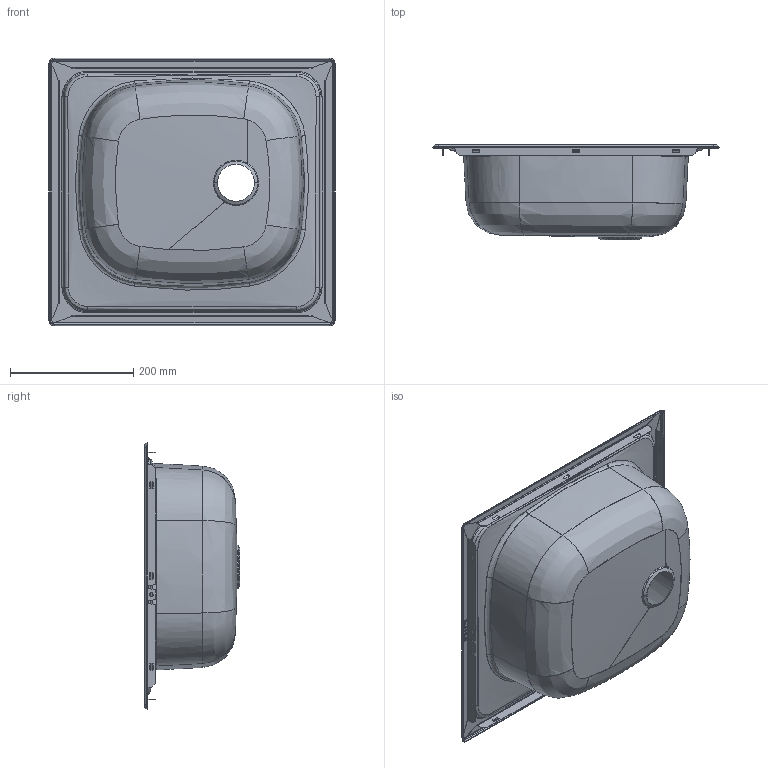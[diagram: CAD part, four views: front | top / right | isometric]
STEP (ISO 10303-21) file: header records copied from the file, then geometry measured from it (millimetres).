
FILE_DESCRIPTION (( 'STEP AP214' ), '1' );
FILE_NAME ('NMB.0465.435.1.E33.STEP', '2021-01-22T11:22:14', ( '' ), ( '' ), 'SwSTEP 2.0', 'SolidWorks 2020', '' );
FILE_SCHEMA (( 'AUTOMOTIVE_DESIGN' ));
Products named in the file (1): NMB.0465.435.1.E33
Bounding box: 464.98 x 155.16 x 435 mm (x, y, z)
Volume: 197935.3 mm3; surface area: 753667.9 mm2
Topology: 1 solids, 1 shells, 573 faces, 1510 edges, 961 vertices
Faces by surface type: plane 280, cylinder 158, bspline 79, cone 36, torus 20
Entity records: 83630 total; most frequent: CARTESIAN_POINT 70254, ORIENTED_EDGE 3020, DIRECTION 2420, EDGE_CURVE 1510, VERTEX_POINT 961, LINE 910, VECTOR 910, AXIS2_PLACEMENT_3D 755
